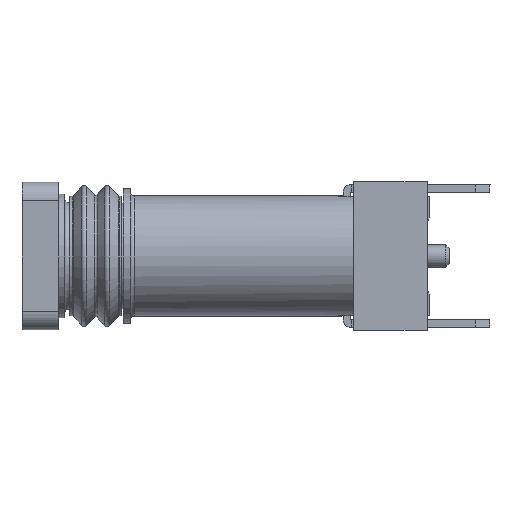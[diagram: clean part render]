
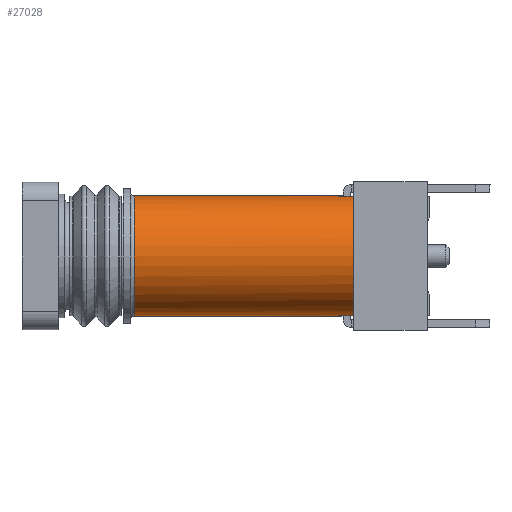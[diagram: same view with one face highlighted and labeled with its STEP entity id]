
A CAD part, left-side view. The second image highlights one B-rep face of the part: STEP entity #27028.
In plain terms, the highlighted cylindrical face has radius 1.63 mm (diameter 3.26 mm), a partial arc.
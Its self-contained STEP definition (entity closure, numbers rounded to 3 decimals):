
#6160=CARTESIAN_POINT('',(-2.89,-1.43,
0.004));
#6161=DIRECTION('',(0.,0.,1.));
#6162=DIRECTION('',(-0.412,0.911,0.));
#6163=AXIS2_PLACEMENT_3D('',#6160,#6161,#6162);
#6517=CARTESIAN_POINT('',(-3.562,0.055,
0.004));
#6518=CARTESIAN_POINT('',(-3.559,0.056,
0.002));
#6519=CARTESIAN_POINT('',(-3.557,0.057,
0.001));
#6520=CARTESIAN_POINT('',(-3.554,0.059,0.));
#6522=DIRECTION('',(0.,0.,1.));
#6523=VECTOR('',#6522,0.189);
#6524=CARTESIAN_POINT('',(-3.09,0.188,0.15));
#6525=LINE('',#6524,#6523);
#6526=DIRECTION('',(0.,0.,1.));
#6527=VECTOR('',#6526,5.464);
#6528=CARTESIAN_POINT('',(-2.89,0.2,
0.486));
#6529=LINE('',#6528,#6527);
#6530=DIRECTION('',(0.,0.,-1.));
#6531=VECTOR('',#6530,5.464);
#6532=CARTESIAN_POINT('',(-2.89,-3.06,5.95));
#6533=LINE('',#6532,#6531);
#6534=DIRECTION('',(0.,0.,-1.));
#6535=VECTOR('',#6534,0.189);
#6536=CARTESIAN_POINT('',(-3.09,-3.048,
0.339));
#6537=LINE('',#6536,#6535);
#6538=CARTESIAN_POINT('',(-3.554,-2.919,0.));
#6539=CARTESIAN_POINT('',(-3.557,-2.917,
0.001));
#6540=CARTESIAN_POINT('',(-3.559,-2.916,
0.002));
#6541=CARTESIAN_POINT('',(-3.562,-2.915,
0.004));
#6547=CARTESIAN_POINT('',(-2.89,-1.43,0.));
#6548=DIRECTION('',(0.,0.,1.));
#6549=DIRECTION('',(-0.407,-0.913,0.));
#6550=AXIS2_PLACEMENT_3D('',#6547,#6548,#6549);
#6556=CARTESIAN_POINT('',(-2.89,-1.43,0.));
#6557=DIRECTION('',(0.,0.,1.));
#6558=DIRECTION('',(-0.215,0.977,0.));
#6559=AXIS2_PLACEMENT_3D('',#6556,#6557,#6558);
#6587=CARTESIAN_POINT('',(-3.24,-3.022,0.));
#6588=CARTESIAN_POINT('',(-3.224,-3.025,0.));
#6589=CARTESIAN_POINT('',(-3.193,-3.032,
0.005));
#6590=CARTESIAN_POINT('',(-3.15,-3.039,
0.027));
#6591=CARTESIAN_POINT('',(-3.116,-3.044,
0.061));
#6592=CARTESIAN_POINT('',(-3.095,-3.047,
0.104));
#6593=CARTESIAN_POINT('',(-3.09,-3.048,
0.135));
#6594=CARTESIAN_POINT('',(-3.09,-3.048,0.15));
#8549=CARTESIAN_POINT('',(-2.92,-3.06,
0.489));
#8550=CARTESIAN_POINT('',(-2.917,-3.06,
0.489));
#8551=CARTESIAN_POINT('',(-2.91,-3.06,
0.488));
#8552=CARTESIAN_POINT('',(-2.9,-3.06,
0.487));
#8553=CARTESIAN_POINT('',(-2.893,-3.06,
0.486));
#8554=CARTESIAN_POINT('',(-2.89,-3.06,
0.486));
#8576=CARTESIAN_POINT('',(-2.89,-1.43,
0.489));
#8577=DIRECTION('',(0.,0.,1.));
#8578=DIRECTION('',(-0.031,-1.,0.));
#8579=AXIS2_PLACEMENT_3D('',#8576,#8577,#8578);
#8585=CARTESIAN_POINT('',(-3.09,-3.048,
0.339));
#8586=CARTESIAN_POINT('',(-3.09,-3.048,
0.354));
#8587=CARTESIAN_POINT('',(-3.085,-3.048,
0.385));
#8588=CARTESIAN_POINT('',(-3.064,-3.051,
0.428));
#8589=CARTESIAN_POINT('',(-3.03,-3.054,
0.462));
#8590=CARTESIAN_POINT('',(-2.987,-3.057,
0.484));
#8591=CARTESIAN_POINT('',(-2.956,-3.059,
0.489));
#8592=CARTESIAN_POINT('',(-2.94,-3.059,
0.489));
#8683=CARTESIAN_POINT('',(-2.89,-1.43,5.95));
#8684=DIRECTION('',(0.,0.,-1.));
#8685=DIRECTION('',(0.,-1.,0.));
#8686=AXIS2_PLACEMENT_3D('',#8683,#8684,#8685);
#8688=CARTESIAN_POINT('',(-2.89,-1.43,5.95));
#8689=DIRECTION('',(0.,0.,-1.));
#8690=DIRECTION('',(-1.,0.,0.));
#8691=AXIS2_PLACEMENT_3D('',#8688,#8689,#8690);
#9052=CARTESIAN_POINT('',(-2.89,0.2,
0.486));
#9053=CARTESIAN_POINT('',(-2.893,0.2,
0.486));
#9054=CARTESIAN_POINT('',(-2.9,0.2,
0.487));
#9055=CARTESIAN_POINT('',(-2.91,0.2,
0.488));
#9056=CARTESIAN_POINT('',(-2.917,0.2,
0.489));
#9057=CARTESIAN_POINT('',(-2.92,0.2,
0.489));
#9068=CARTESIAN_POINT('',(-2.89,-1.43,
0.489));
#9069=DIRECTION('',(0.,0.,1.));
#9070=DIRECTION('',(-0.018,1.,0.));
#9071=AXIS2_PLACEMENT_3D('',#9068,#9069,#9070);
#9073=CARTESIAN_POINT('',(-2.94,0.199,
0.489));
#9074=CARTESIAN_POINT('',(-2.956,0.199,
0.489));
#9075=CARTESIAN_POINT('',(-2.987,0.197,
0.484));
#9076=CARTESIAN_POINT('',(-3.029,0.194,
0.462));
#9077=CARTESIAN_POINT('',(-3.064,0.191,
0.428));
#9078=CARTESIAN_POINT('',(-3.085,0.188,
0.385));
#9079=CARTESIAN_POINT('',(-3.09,0.188,
0.354));
#9080=CARTESIAN_POINT('',(-3.09,0.188,
0.339));
#9107=CARTESIAN_POINT('',(-3.09,0.188,0.15));
#9108=CARTESIAN_POINT('',(-3.09,0.188,
0.134));
#9109=CARTESIAN_POINT('',(-3.095,0.187,
0.103));
#9110=CARTESIAN_POINT('',(-3.116,0.184,
0.061));
#9111=CARTESIAN_POINT('',(-3.15,0.179,
0.027));
#9112=CARTESIAN_POINT('',(-3.193,0.172,
0.005));
#9113=CARTESIAN_POINT('',(-3.224,0.165,0.));
#9114=CARTESIAN_POINT('',(-3.24,0.162,0.));
#14233=CARTESIAN_POINT('',(-2.89,0.2,5.95));
#14234=VERTEX_POINT('',#14233);
#14327=CARTESIAN_POINT('',(-2.89,0.2,
0.486));
#14328=VERTEX_POINT('',#14327);
#14451=VERTEX_POINT('',#9057);
#14454=VERTEX_POINT('',#9107);
#14455=VERTEX_POINT('',#9114);
#14456=CARTESIAN_POINT('',(-3.09,0.188,
0.339));
#14457=VERTEX_POINT('',#14456);
#14458=VERTEX_POINT('',#9073);
#14459=CARTESIAN_POINT('',(-4.52,-1.43,5.95));
#14460=VERTEX_POINT('',#14459);
#14461=CARTESIAN_POINT('',(-2.89,-3.06,5.95));
#14462=VERTEX_POINT('',#14461);
#14463=CARTESIAN_POINT('',(-2.89,-3.06,
0.486));
#14464=VERTEX_POINT('',#14463);
#14465=VERTEX_POINT('',#8549);
#14466=CARTESIAN_POINT('',(-2.94,-3.059,
0.489));
#14467=VERTEX_POINT('',#14466);
#14468=VERTEX_POINT('',#8585);
#14469=CARTESIAN_POINT('',(-3.09,-3.048,0.15));
#14470=VERTEX_POINT('',#14469);
#14471=VERTEX_POINT('',#6587);
#17837=VERTEX_POINT('',#6538);
#17838=VERTEX_POINT('',#6541);
#17839=VERTEX_POINT('',#6517);
#17840=VERTEX_POINT('',#6520);
#26986=CARTESIAN_POINT('',(-2.89,-1.43,6.25));
#26987=DIRECTION('',(0.,0.,-1.));
#26988=DIRECTION('',(-1.,0.,0.));
#26989=AXIS2_PLACEMENT_3D('',#26986,#26987,#26988);
#26990=CYLINDRICAL_SURFACE('',#26989,1.63);
#26991=ORIENTED_EDGE('',*,*,#26458,.F.);
#26992=ORIENTED_EDGE('',*,*,#26402,.T.);
#26994=ORIENTED_EDGE('',*,*,#26993,.F.);
#26996=ORIENTED_EDGE('',*,*,#26995,.F.);
#26998=ORIENTED_EDGE('',*,*,#26997,.T.);
#27000=ORIENTED_EDGE('',*,*,#26999,.F.);
#27002=ORIENTED_EDGE('',*,*,#27001,.F.);
#27004=ORIENTED_EDGE('',*,*,#27003,.F.);
#27006=ORIENTED_EDGE('',*,*,#27005,.T.);
#27008=ORIENTED_EDGE('',*,*,#27007,.F.);
#27010=ORIENTED_EDGE('',*,*,#27009,.F.);
#27012=ORIENTED_EDGE('',*,*,#27011,.T.);
#27014=ORIENTED_EDGE('',*,*,#27013,.F.);
#27016=ORIENTED_EDGE('',*,*,#27015,.F.);
#27018=ORIENTED_EDGE('',*,*,#27017,.F.);
#27020=ORIENTED_EDGE('',*,*,#27019,.T.);
#27022=ORIENTED_EDGE('',*,*,#27021,.F.);
#27024=ORIENTED_EDGE('',*,*,#27023,.F.);
#27025=ORIENTED_EDGE('',*,*,#26631,.T.);
#27026=EDGE_LOOP('',(#26991,#26992,#26994,#26996,#26998,#27000,#27002,#27004,
#27006,#27008,#27010,#27012,#27014,#27016,#27018,#27020,#27022,#27024,#27025));
#27027=FACE_OUTER_BOUND('',#27026,.F.);
#27028=ADVANCED_FACE('',(#27027),#26990,.T.);
#6164=CIRCLE('',#6163,1.63);
#6521=B_SPLINE_CURVE_WITH_KNOTS('',3,(#6517,#6518,#6519,#6520),.UNSPECIFIED.,
.F.,.F.,(4,4),(0.,1.),.UNSPECIFIED.);
#6542=B_SPLINE_CURVE_WITH_KNOTS('',3,(#6538,#6539,#6540,#6541),.UNSPECIFIED.,
.F.,.F.,(4,4),(0.,1.),.UNSPECIFIED.);
#6551=CIRCLE('',#6550,1.63);
#6560=CIRCLE('',#6559,1.63);
#6595=B_SPLINE_CURVE_WITH_KNOTS('',3,(#6587,#6588,#6589,#6590,#6591,#6592,#6593,
#6594),.UNSPECIFIED.,.F.,.F.,(4,1,1,1,1,4),(0.,0.2,0.4,0.6,0.8,1.),
.UNSPECIFIED.);
#8555=B_SPLINE_CURVE_WITH_KNOTS('',3,(#8549,#8550,#8551,#8552,#8553,#8554),
.UNSPECIFIED.,.F.,.F.,(4,1,1,4),(0.,0.333,0.667,1.),
.UNSPECIFIED.);
#8580=CIRCLE('',#8579,1.63);
#8593=B_SPLINE_CURVE_WITH_KNOTS('',3,(#8585,#8586,#8587,#8588,#8589,#8590,#8591,
#8592),.UNSPECIFIED.,.F.,.F.,(4,1,1,1,1,4),(0.,0.2,0.4,0.6,0.8,1.),
.UNSPECIFIED.);
#8687=CIRCLE('',#8686,1.63);
#8692=CIRCLE('',#8691,1.63);
#9058=B_SPLINE_CURVE_WITH_KNOTS('',3,(#9052,#9053,#9054,#9055,#9056,#9057),
.UNSPECIFIED.,.F.,.F.,(4,1,1,4),(0.,0.333,0.667,1.),
.UNSPECIFIED.);
#9072=CIRCLE('',#9071,1.63);
#9081=B_SPLINE_CURVE_WITH_KNOTS('',3,(#9073,#9074,#9075,#9076,#9077,#9078,#9079,
#9080),.UNSPECIFIED.,.F.,.F.,(4,1,1,1,1,4),(0.,0.2,0.4,0.6,0.8,1.),
.UNSPECIFIED.);
#9115=B_SPLINE_CURVE_WITH_KNOTS('',3,(#9107,#9108,#9109,#9110,#9111,#9112,#9113,
#9114),.UNSPECIFIED.,.F.,.F.,(4,1,1,1,1,4),(0.,0.2,0.4,0.6,0.8,1.),
.UNSPECIFIED.);
#26402=EDGE_CURVE('',#17839,#17840,#6521,.T.);
#26458=EDGE_CURVE('',#17839,#17838,#6164,.T.);
#26631=EDGE_CURVE('',#17837,#17838,#6542,.T.);
#26993=EDGE_CURVE('',#14455,#17840,#6560,.T.);
#26995=EDGE_CURVE('',#14454,#14455,#9115,.T.);
#26997=EDGE_CURVE('',#14454,#14457,#6525,.T.);
#26999=EDGE_CURVE('',#14458,#14457,#9081,.T.);
#27001=EDGE_CURVE('',#14451,#14458,#9072,.T.);
#27003=EDGE_CURVE('',#14328,#14451,#9058,.T.);
#27005=EDGE_CURVE('',#14328,#14234,#6529,.T.);
#27007=EDGE_CURVE('',#14460,#14234,#8692,.T.);
#27009=EDGE_CURVE('',#14462,#14460,#8687,.T.);
#27011=EDGE_CURVE('',#14462,#14464,#6533,.T.);
#27013=EDGE_CURVE('',#14465,#14464,#8555,.T.);
#27015=EDGE_CURVE('',#14467,#14465,#8580,.T.);
#27017=EDGE_CURVE('',#14468,#14467,#8593,.T.);
#27019=EDGE_CURVE('',#14468,#14470,#6537,.T.);
#27021=EDGE_CURVE('',#14471,#14470,#6595,.T.);
#27023=EDGE_CURVE('',#17837,#14471,#6551,.T.);
